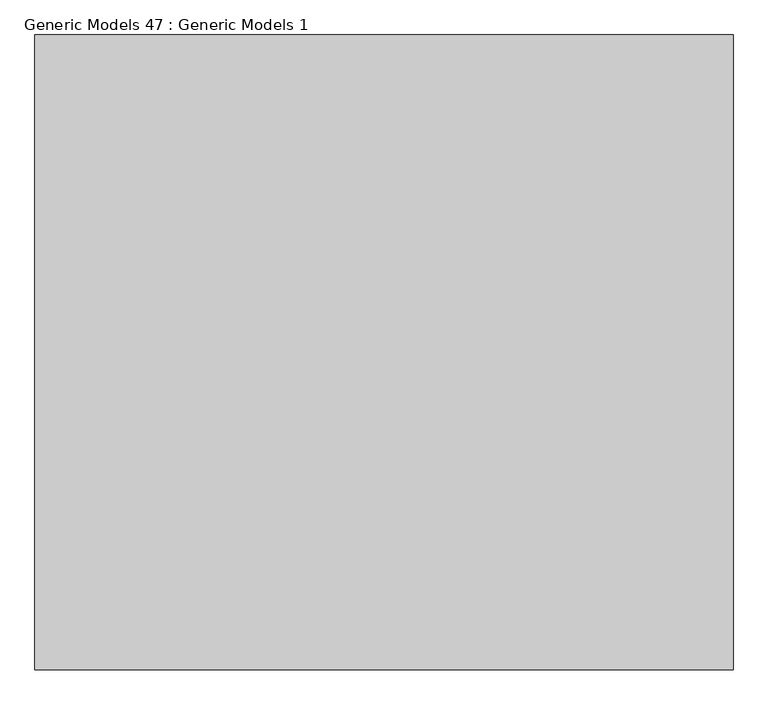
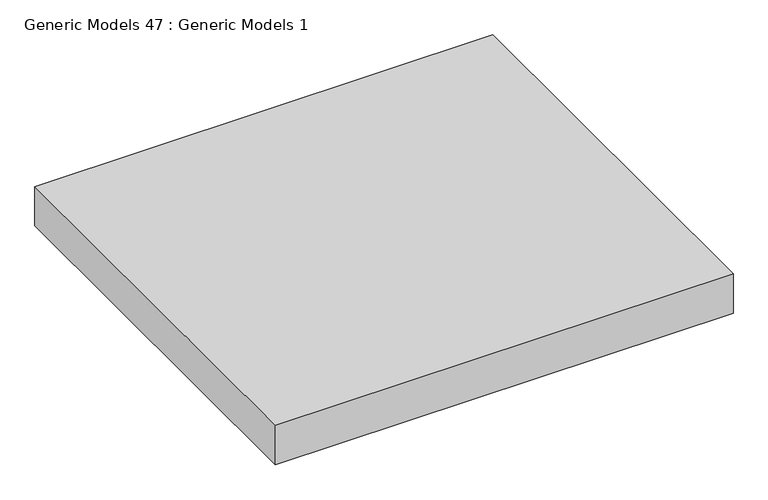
"""IFC4 building model written with IfcOpenShell, lengths in millimetres: proxy geometry, Generic Models 47 : Generic Models 1."""

from ifc_helpers import new_model, si_unit, origin, origin_with_axes, place, context, project, spatial, polyline, outline, extrude, source, transform, mapped, element, save


def generic_models_47_generic_models_1_7874324c(model_context):
    return source(origin(), model_context, "Body", "SweptSolid", [
        extrude(outline(polyline([(7295.1731655, -3424.1855869), (7295.1731655, -2424.1855869), (8395.1731655, -2424.1855869), (8395.1731655, -3424.1855869), (7295.1731655, -3424.1855869)])), origin_with_axes(), (0.0, 0.0, 1.0), 100.0),
    ])


if __name__ == "__main__":
    model = new_model("IFC4")
    model_context = context("Model", 3, world=origin())
    ifc_project = project(units=[si_unit("LENGTHUNIT", "METRE", prefix="MILLI")], contexts=[model_context])
    site = spatial("IfcSite", under=ifc_project)
    building = spatial("IfcBuilding", under=site)
    placement = place(None, origin())
    generic_models_47_generic_models_1_shape = generic_models_47_generic_models_1_7874324c(model_context)
    element("IfcBuildingElementProxy", 1, Name="Generic Models 47 : Generic Models 1", ObjectType="Generic Models 47 : Generic Models 1", at=placement, inside=building, context=model_context, shape_type="MappedRepresentation", body=[
        mapped(generic_models_47_generic_models_1_shape, transform((0.0, 0.0, 0.0), x_axis=(1.0, 0.0, 0.0), y_axis=(0.0, 1.0, 0.0), z_axis=(0.0, 0.0, 1.0))),
    ])
    save(model, "model.ifc")
